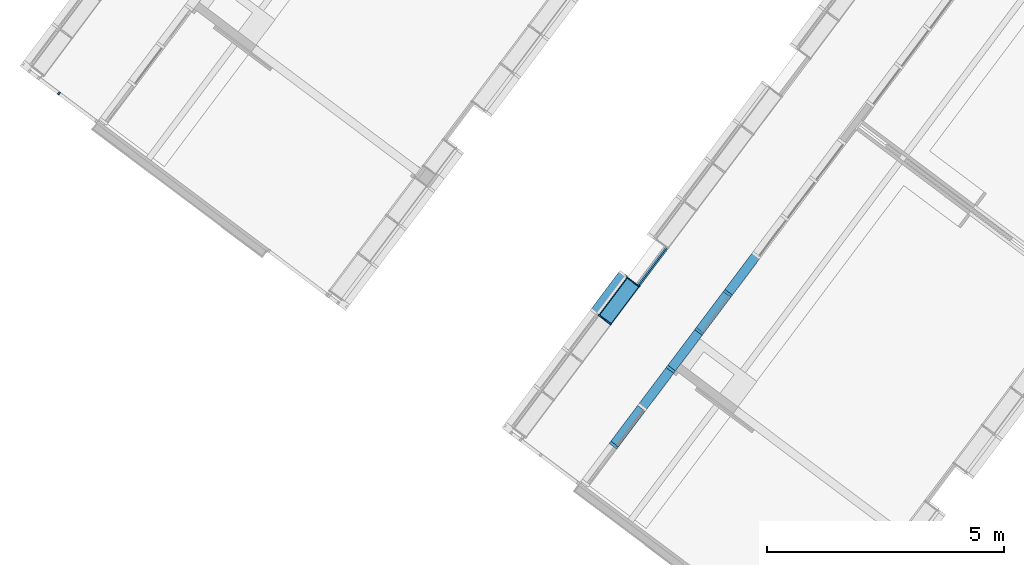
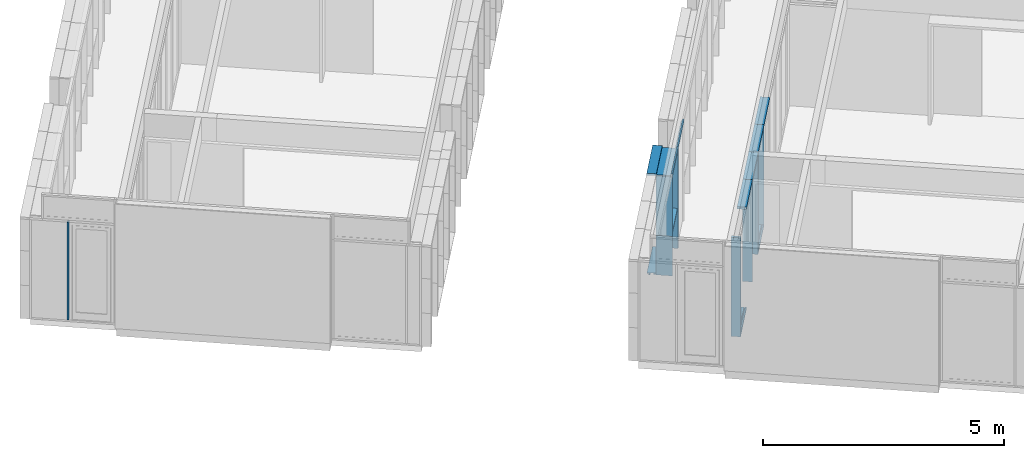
# One storey, part 35 of 243: 20 members, 4 elements without a shape of their own.
"""IFC2X3 building model written with IfcOpenShell, lengths in metres."""

from ifc_helpers import new_model, entity, si_unit, converted_unit, derived_unit, direction, frame, frame_2d, origin, place, context, subcontext, project, spatial, polyline, circle_curve, parameter, trimmed, segment, composite_curve, rectangle, outline, extrude, source, transform, mapped, material, type_object, type_shapes, element, aggregate, save


model = new_model("IFC2X3")

# Units and contexts
model_context = context("Model", 3, precision=1e-05, world=origin(), true_north=direction((6.123031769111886e-17, 1.0)))
body_context = subcontext(model_context, "Body", "Model", "MODEL_VIEW")
ifc_project = project(units=[si_unit("LENGTHUNIT", "METRE"), si_unit("AREAUNIT", "SQUARE_METRE"), si_unit("VOLUMEUNIT", "CUBIC_METRE"), converted_unit("PLANEANGLEUNIT", "DEGREE", entity("IfcRatioMeasure", 0.017453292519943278), si_unit("PLANEANGLEUNIT", "RADIAN"), dimensions=[0, 0, 0, 0, 0, 0, 0]), si_unit("MASSUNIT", "GRAM", prefix="KILO"), derived_unit("MASSDENSITYUNIT", [(si_unit("MASSUNIT", "GRAM", prefix="KILO"), 1), (si_unit("LENGTHUNIT", "METRE"), -3)]), derived_unit("IONCONCENTRATIONUNIT", [(si_unit("MASSUNIT", "GRAM", prefix="KILO"), 1), (si_unit("LENGTHUNIT", "METRE"), -3)]), derived_unit("MOMENTOFINERTIAUNIT", [(si_unit("LENGTHUNIT", "METRE"), 4)]), si_unit("TIMEUNIT", "SECOND"), si_unit("FREQUENCYUNIT", "HERTZ"), si_unit("THERMODYNAMICTEMPERATUREUNIT", "DEGREE_CELSIUS"), derived_unit("THERMALTRANSMITTANCEUNIT", [(si_unit("MASSUNIT", "GRAM", prefix="KILO"), 1), (si_unit("THERMODYNAMICTEMPERATUREUNIT", "KELVIN"), -1), (si_unit("TIMEUNIT", "SECOND"), -3)]), derived_unit("THERMALCONDUCTANCEUNIT", [(si_unit("MASSUNIT", "GRAM", prefix="KILO"), 1), (si_unit("THERMODYNAMICTEMPERATUREUNIT", "KELVIN"), -1), (si_unit("TIMEUNIT", "SECOND"), -3), (si_unit("LENGTHUNIT", "METRE"), 1)]), derived_unit("VOLUMETRICFLOWRATEUNIT", [(si_unit("LENGTHUNIT", "METRE"), 3), (si_unit("TIMEUNIT", "SECOND"), -1)]), derived_unit("MASSFLOWRATEUNIT", [(si_unit("MASSUNIT", "GRAM", prefix="KILO"), 1), (si_unit("TIMEUNIT", "SECOND"), -1)]), derived_unit("ROTATIONALFREQUENCYUNIT", [(si_unit("TIMEUNIT", "SECOND"), -1)]), si_unit("ELECTRICCURRENTUNIT", "AMPERE"), si_unit("ELECTRICVOLTAGEUNIT", "VOLT"), si_unit("POWERUNIT", "WATT"), si_unit("FORCEUNIT", "NEWTON", prefix="KILO"), si_unit("ILLUMINANCEUNIT", "LUX"), si_unit("LUMINOUSFLUXUNIT", "LUMEN"), si_unit("LUMINOUSINTENSITYUNIT", "CANDELA"), derived_unit("USERDEFINED", [(si_unit("MASSUNIT", "GRAM", prefix="KILO"), -1), (si_unit("LENGTHUNIT", "METRE"), -2), (si_unit("TIMEUNIT", "SECOND"), 3), (si_unit("LUMINOUSFLUXUNIT", "LUMEN"), 1)]), derived_unit("USERDEFINED", [(si_unit("MASSUNIT", "GRAM", prefix="KILO"), 1), (si_unit("TIMEUNIT", "SECOND"), -3), (si_unit("LENGTHUNIT", "METRE"), 3), (si_unit("ELECTRICCURRENTUNIT", "AMPERE"), -2)]), derived_unit("SOUNDPOWERUNIT", [(si_unit("MASSUNIT", "GRAM", prefix="KILO"), 1), (si_unit("TIMEUNIT", "SECOND"), -3), (si_unit("LENGTHUNIT", "METRE"), 2)]), derived_unit("SOUNDPRESSUREUNIT", [(si_unit("MASSUNIT", "GRAM", prefix="KILO"), 1), (si_unit("LENGTHUNIT", "METRE"), -1), (si_unit("TIMEUNIT", "SECOND"), -2)]), derived_unit("LINEARVELOCITYUNIT", [(si_unit("LENGTHUNIT", "METRE"), 1), (si_unit("TIMEUNIT", "SECOND"), -1)]), si_unit("PRESSUREUNIT", "PASCAL"), derived_unit("USERDEFINED", [(si_unit("MASSUNIT", "GRAM", prefix="KILO"), 1), (si_unit("LENGTHUNIT", "METRE"), -2), (si_unit("TIMEUNIT", "SECOND"), -2)]), derived_unit("LINEARFORCEUNIT", [(si_unit("MASSUNIT", "GRAM", prefix="KILO"), 1), (si_unit("TIMEUNIT", "SECOND"), -2)]), derived_unit("PLANARFORCEUNIT", [(si_unit("MASSUNIT", "GRAM", prefix="KILO"), 1), (si_unit("LENGTHUNIT", "METRE"), -1), (si_unit("TIMEUNIT", "SECOND"), -2)]), derived_unit("SPECIFICHEATCAPACITYUNIT", [(si_unit("THERMODYNAMICTEMPERATUREUNIT", "KELVIN"), -1), (si_unit("LENGTHUNIT", "METRE"), 2), (si_unit("TIMEUNIT", "SECOND"), -2)]), derived_unit("HEATINGVALUEUNIT", [(si_unit("LENGTHUNIT", "METRE"), 2), (si_unit("TIMEUNIT", "SECOND"), -2)]), derived_unit("VAPORPERMEABILITYUNIT", [(si_unit("LENGTHUNIT", "METRE"), -1), (si_unit("TIMEUNIT", "SECOND"), 1)]), derived_unit("DYNAMICVISCOSITYUNIT", [(si_unit("MASSUNIT", "GRAM", prefix="KILO"), 1), (si_unit("TIMEUNIT", "SECOND"), -1), (si_unit("LENGTHUNIT", "METRE"), -1)]), derived_unit("THERMALEXPANSIONCOEFFICIENTUNIT", [(si_unit("THERMODYNAMICTEMPERATUREUNIT", "KELVIN"), -1)]), derived_unit("MODULUSOFELASTICITYUNIT", [(si_unit("MASSUNIT", "GRAM", prefix="KILO"), 1), (si_unit("LENGTHUNIT", "METRE"), -1), (si_unit("TIMEUNIT", "SECOND"), -2)]), derived_unit("ISOTHERMALMOISTURECAPACITYUNIT", [(si_unit("LENGTHUNIT", "METRE"), 3), (si_unit("MASSUNIT", "GRAM", prefix="KILO"), -1)]), derived_unit("MOISTUREDIFFUSIVITYUNIT", [(si_unit("TIMEUNIT", "SECOND"), -1), (si_unit("LENGTHUNIT", "METRE"), 2)])], contexts=[model_context])

# Site, building, storey
site_placement = place(None, frame((0.0, 0.0, 235.0), z_axis=(0.0, 0.0, 1.0), x_axis=(-0.7996477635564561, 0.6004693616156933, 0.0)))
site = spatial("IfcSite", under=ifc_project, at=site_placement, Name="Default", CompositionType="ELEMENT")
building_placement = place(site_placement, origin())
building = spatial("IfcBuilding", under=site, at=building_placement, CompositionType="ELEMENT")
storey_placement = place(building_placement, origin())
storey = spatial("IfcBuildingStorey", under=building, at=storey_placement, Name="P0- Escola", CompositionType="ELEMENT", Elevation=0.0)

# Curtain wall, members
curtain_wall_type_1 = type_object("IfcCurtainWallType", Name="Muro cortina:MC- INT- a1", PredefinedType="NOTDEFINED")
curtain_wall_1_placement = place(storey_placement, origin())
curtain_wall_1 = element("IfcCurtainWall", 1, at=curtain_wall_1_placement, inside=storey, type_object=curtain_wall_type_1, Name="Muro cortina:MC- INT- a1", ObjectType="Muro cortina:MC- INT- a1")
ifc_material_1 = material(Name="_Fusta massisa- T1")
member_type_1 = type_object("IfcMemberType", Name="Montante rectangular:MC- Fusta- 20x6 cm- Esquerra", PredefinedType="MULLION", material=ifc_material_1)
shared_shape_1 = source(origin(), body_context, "Body", "SweptSolid", [
    extrude(outline(polyline([(-0.07000000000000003, -0.01875000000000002), (-0.04000000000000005, -0.01875000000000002), (-0.04000000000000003, -0.0037500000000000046), (-0.020000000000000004, -0.0037500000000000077), (-0.02, -0.018750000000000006), (0.13, -0.018749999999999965), (0.12999999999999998, 0.04125000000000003), (-0.06999999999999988, 0.04124999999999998), (-0.07000000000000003, -0.01875000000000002)])), frame((-0.041249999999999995, -0.03, -1.0), z_axis=(0.0, 0.0, 1.0), x_axis=(0.0, -1.0, 0.0)), (0.0, 0.0, 1.0), 0.9999999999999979),
])
type_shapes(member_type_1, [shared_shape_1])
member_1_placement = place(curtain_wall_1_placement, frame((60.02014768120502, -26.415189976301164, 2.565), z_axis=(0.0, -1.0, 0.0), x_axis=(0.0, 0.0, 1.0)))
member_1 = element("IfcMember", 2, at=member_1_placement, type_object=member_type_1, material=ifc_material_1, Name="Montante rectangular:MC- Fusta- 20x6 cm- Esquerra", ObjectType="Montante rectangular:MC- Fusta- 20x6 cm- Esquerra", context=body_context, shape_type="MappedRepresentation", body=[
    mapped(shared_shape_1, transform((0.0, 0.0, 0.0), scale=1.0)),
])
member_type_2 = type_object("IfcMemberType", Name="Montante rectangular:MC- Fusta- 20x6 cm- Esquerra", PredefinedType="MULLION", material=ifc_material_1)
shared_shape_2 = source(origin(), body_context, "Body", "SweptSolid", [
    extrude(outline(polyline([(-0.07000000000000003, -0.01875000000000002), (-0.04000000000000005, -0.01875000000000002), (-0.04000000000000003, -0.0037500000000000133), (-0.020000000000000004, -0.0037500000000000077), (-0.02, -0.018750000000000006), (0.13, -0.018749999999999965), (0.12999999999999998, 0.04125000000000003), (-0.06999999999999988, 0.04124999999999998), (-0.07000000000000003, -0.01875000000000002)])), frame((-0.01124999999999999, -0.03, -2.5050000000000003), z_axis=(0.0, 0.0, 1.0), x_axis=(0.0, -1.0, 0.0)), (0.0, 0.0, 1.0), 2.5050000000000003),
])
type_shapes(member_type_2, [shared_shape_2])
member_2_placement = place(curtain_wall_1_placement, frame((60.02014768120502, -25.415189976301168, 0.0), z_axis=(0.0, 0.0, -1.0), x_axis=(0.0, -1.0, 0.0)))
member_2 = element("IfcMember", 3, at=member_2_placement, type_object=member_type_2, material=ifc_material_1, Name="Montante rectangular:MC- Fusta- 20x6 cm- Esquerra", ObjectType="Montante rectangular:MC- Fusta- 20x6 cm- Esquerra", context=body_context, shape_type="MappedRepresentation", body=[
    mapped(shared_shape_2, transform((0.0, 0.0, 0.0), scale=1.0)),
])
member_type_3 = type_object("IfcMemberType", Name="Montante rectangular:MC- Fusta- 20x6 cm- Dreta", PredefinedType="MULLION", material=ifc_material_1)
shared_shape_3 = source(origin(), body_context, "Body", "SweptSolid", [
    extrude(outline(polyline([(-0.07000000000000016, -0.041249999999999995), (0.13000000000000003, -0.041249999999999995), (0.13000000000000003, 0.01875), (-0.019999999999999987, 0.01875), (-0.019999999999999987, 0.00375), (-0.04000000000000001, 0.00375), (-0.03999999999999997, 0.01875), (-0.06999999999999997, 0.01875), (-0.07000000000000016, -0.041249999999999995)])), frame((0.011250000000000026, -0.02999999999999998, -2.5050000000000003), z_axis=(0.0, 0.0, 1.0), x_axis=(0.0, -1.0, 0.0)), (0.0, 0.0, 1.0), 2.5050000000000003),
])
type_shapes(member_type_3, [shared_shape_3])
member_3_placement = place(curtain_wall_1_placement, frame((60.020147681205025, -21.415189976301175, 0.0), z_axis=(0.0, 0.0, -1.0), x_axis=(0.0, -1.0, 0.0)))
member_3 = element("IfcMember", 4, at=member_3_placement, type_object=member_type_3, material=ifc_material_1, Name="Montante rectangular:MC- Fusta- 20x6 cm- Dreta", ObjectType="Montante rectangular:MC- Fusta- 20x6 cm- Dreta", context=body_context, shape_type="MappedRepresentation", body=[
    mapped(shared_shape_3, transform((0.0, 0.0, 0.0), scale=1.0)),
])
member_type_4 = type_object("IfcMemberType", Name="Montante rectangular:MC- Fusta- 20x6 cm- Neutre", PredefinedType="MULLION", material=ifc_material_1)
shared_shape_4 = source(origin(), body_context, "Body", "SweptSolid", [
    extrude(rectangle(XDim=0.2, YDim=0.060000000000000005, at=frame_2d((-4.85722573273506e-17, -3.469446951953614e-18), x_axis=(1.0, 0.0))), frame((-0.03, -0.060000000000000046, -1.0), z_axis=(0.0, 0.0, 1.0), x_axis=(0.0, -1.0, 0.0)), (0.0, 0.0, 1.0), 0.9999999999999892),
])
type_shapes(member_type_4, [shared_shape_4])
member_4_placement = place(curtain_wall_1_placement, frame((60.02014768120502, -25.415189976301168, 2.565), z_axis=(0.0, -1.0, 0.0), x_axis=(0.0, 0.0, 1.0)))
member_4 = element("IfcMember", 5, at=member_4_placement, type_object=member_type_4, material=ifc_material_1, Name="Montante rectangular:MC- Fusta- 20x6 cm- Neutre", ObjectType="Montante rectangular:MC- Fusta- 20x6 cm- Neutre", context=body_context, shape_type="MappedRepresentation", body=[
    mapped(shared_shape_4, transform((0.0, 0.0, 0.0), scale=1.0)),
])
member_type_5 = type_object("IfcMemberType", Name="Montante rectangular:MC- Fusta- 20x6 cm- Neutre", PredefinedType="MULLION", material=ifc_material_1)
shared_shape_5 = source(origin(), body_context, "Body", "SweptSolid", [
    extrude(rectangle(XDim=0.2, YDim=0.060000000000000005, at=frame_2d((-4.85722573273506e-17, -3.469446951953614e-18), x_axis=(1.0, 0.0))), frame((-0.03, -0.060000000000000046, -1.0), z_axis=(0.0, 0.0, 1.0), x_axis=(0.0, -1.0, 0.0)), (0.0, 0.0, 1.0), 1.0000000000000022),
])
type_shapes(member_type_5, [shared_shape_5])
member_5_placement = place(curtain_wall_1_placement, frame((60.02014768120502, -24.415189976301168, 2.565), z_axis=(0.0, -1.0, 0.0), x_axis=(0.0, 0.0, 1.0)))
member_5 = element("IfcMember", 6, at=member_5_placement, type_object=member_type_5, material=ifc_material_1, Name="Montante rectangular:MC- Fusta- 20x6 cm- Neutre", ObjectType="Montante rectangular:MC- Fusta- 20x6 cm- Neutre", context=body_context, shape_type="MappedRepresentation", body=[
    mapped(shared_shape_5, transform((0.0, 0.0, 0.0), scale=1.0)),
])
member_type_6 = type_object("IfcMemberType", Name="Montante rectangular:MC- Fusta- 20x6 cm- Neutre", PredefinedType="MULLION", material=ifc_material_1)
shared_shape_6 = source(origin(), body_context, "Body", "SweptSolid", [
    extrude(rectangle(XDim=0.2, YDim=0.06, at=frame_2d((-4.85722573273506e-17, 0.0), x_axis=(1.0, 0.0))), frame((0.0, -0.060000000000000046, -2.5050000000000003), z_axis=(0.0, 0.0, 1.0), x_axis=(0.0, -1.0, 0.0)), (0.0, 0.0, 1.0), 2.5050000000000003),
])
type_shapes(member_type_6, [shared_shape_6])
member_6_placement = place(curtain_wall_1_placement, frame((60.02014768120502, -24.415189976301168, 0.0), z_axis=(0.0, 0.0, -1.0), x_axis=(0.0, -1.0, 0.0)))
member_6 = element("IfcMember", 7, at=member_6_placement, type_object=member_type_6, material=ifc_material_1, Name="Montante rectangular:MC- Fusta- 20x6 cm- Neutre", ObjectType="Montante rectangular:MC- Fusta- 20x6 cm- Neutre", context=body_context, shape_type="MappedRepresentation", body=[
    mapped(shared_shape_6, transform((0.0, 0.0, 0.0), scale=1.0)),
])
member_type_7 = type_object("IfcMemberType", Name="Montante rectangular:MC- Fusta- 20x6 cm- Neutre", PredefinedType="MULLION", material=ifc_material_1)
shared_shape_7 = source(origin(), body_context, "Body", "SweptSolid", [
    extrude(rectangle(XDim=0.2, YDim=0.060000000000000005, at=frame_2d((-4.85722573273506e-17, -3.469446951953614e-18), x_axis=(1.0, 0.0))), frame((-0.03, -0.060000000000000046, -1.0), z_axis=(0.0, 0.0, 1.0), x_axis=(0.0, -1.0, 0.0)), (0.0, 0.0, 1.0), 0.9999999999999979),
])
type_shapes(member_type_7, [shared_shape_7])
member_7_placement = place(curtain_wall_1_placement, frame((60.02014768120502, -23.41518997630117, 2.565), z_axis=(0.0, -1.0, 0.0), x_axis=(0.0, 0.0, 1.0)))
member_7 = element("IfcMember", 8, at=member_7_placement, type_object=member_type_7, material=ifc_material_1, Name="Montante rectangular:MC- Fusta- 20x6 cm- Neutre", ObjectType="Montante rectangular:MC- Fusta- 20x6 cm- Neutre", context=body_context, shape_type="MappedRepresentation", body=[
    mapped(shared_shape_7, transform((0.0, 0.0, 0.0), scale=1.0)),
])
member_type_8 = type_object("IfcMemberType", Name="Montante rectangular:MC- Fusta- 20x6 cm- Neutre", PredefinedType="MULLION", material=ifc_material_1)
shared_shape_8 = source(origin(), body_context, "Body", "SweptSolid", [
    extrude(rectangle(XDim=0.2, YDim=0.06, at=frame_2d((-4.85722573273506e-17, 0.0), x_axis=(1.0, 0.0))), frame((0.0, -0.060000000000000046, -2.5050000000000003), z_axis=(0.0, 0.0, 1.0), x_axis=(0.0, -1.0, 0.0)), (0.0, 0.0, 1.0), 2.5050000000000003),
])
type_shapes(member_type_8, [shared_shape_8])
member_8_placement = place(curtain_wall_1_placement, frame((60.02014768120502, -23.41518997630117, 0.0), z_axis=(0.0, 0.0, -1.0), x_axis=(0.0, -1.0, 0.0)))
member_8 = element("IfcMember", 9, at=member_8_placement, type_object=member_type_8, material=ifc_material_1, Name="Montante rectangular:MC- Fusta- 20x6 cm- Neutre", ObjectType="Montante rectangular:MC- Fusta- 20x6 cm- Neutre", context=body_context, shape_type="MappedRepresentation", body=[
    mapped(shared_shape_8, transform((0.0, 0.0, 0.0), scale=1.0)),
])
member_type_9 = type_object("IfcMemberType", Name="Montante rectangular:MC- Fusta- 20x6 cm- Inferior", PredefinedType="MULLION", material=ifc_material_1)
shared_shape_9 = source(origin(), body_context, "Body", "SweptSolid", [
    extrude(outline(polyline([(-0.06999999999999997, -0.018750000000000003), (-0.039999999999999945, -0.018750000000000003), (-0.03999999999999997, -0.003750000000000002), (-0.019999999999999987, -0.0037500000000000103), (-0.019999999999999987, -0.018750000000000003), (0.13000000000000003, -0.018750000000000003), (0.13000000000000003, 0.041249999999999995), (-0.07000000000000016, 0.041249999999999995), (-0.06999999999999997, -0.018750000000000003)])), frame((-0.041249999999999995, -0.02999999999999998, -0.9399999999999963), z_axis=(0.0, 0.0, 1.0), x_axis=(0.0, -1.0, 0.0)), (0.0, 0.0, 1.0), 0.9399999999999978),
])
type_shapes(member_type_9, [shared_shape_9])
member_9_placement = place(curtain_wall_1_placement, frame((60.02014768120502, -24.44518997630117, 0.0), z_axis=(0.0, 1.0, 0.0), x_axis=(0.0, 0.0, -1.0)))
member_9 = element("IfcMember", 10, at=member_9_placement, type_object=member_type_9, material=ifc_material_1, Name="Montante rectangular:MC- Fusta- 20x6 cm- Inferior", ObjectType="Montante rectangular:MC- Fusta- 20x6 cm- Inferior", context=body_context, shape_type="MappedRepresentation", body=[
    mapped(shared_shape_9, transform((0.0, 0.0, 0.0), scale=1.0)),
])
member_10_placement = place(curtain_wall_1_placement, frame((60.020147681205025, -21.445189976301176, 0.0), z_axis=(0.0, 1.0, 0.0), x_axis=(0.0, 0.0, -1.0)))
member_10 = element("IfcMember", 11, at=member_10_placement, type_object=member_type_9, material=ifc_material_1, Name="Montante rectangular:MC- Fusta- 20x6 cm- Inferior", ObjectType="Montante rectangular:MC- Fusta- 20x6 cm- Inferior", context=body_context, shape_type="MappedRepresentation", body=[
    mapped(shared_shape_9, transform((0.0, 0.0, 0.0), scale=1.0)),
])
aggregate(curtain_wall_1, [member_1, member_4, member_2, member_5, member_6, member_7, member_8, member_3, member_9, member_10])

curtain_wall_type_2 = type_object("IfcCurtainWallType", Name="Muro cortina:MC- INT- k2", PredefinedType="NOTDEFINED")
curtain_wall_2_placement = place(storey_placement, origin())
curtain_wall_2 = element("IfcCurtainWall", 12, at=curtain_wall_2_placement, inside=storey, type_object=curtain_wall_type_2, Name="Muro cortina:MC- INT- k2", ObjectType="Muro cortina:MC- INT- k2")
member_type_10 = type_object("IfcMemberType", Name="Montante rectangular:MC- Fusta- 35x3 cm- Centre", PredefinedType="MULLION", material=ifc_material_1)
shared_shape_10 = source(origin(), body_context, "Body", "SweptSolid", [
    extrude(rectangle(XDim=0.3450000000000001, YDim=0.030000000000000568, at=frame_2d((0.0, -1.3964523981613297e-16), x_axis=(1.0, 0.0))), frame((0.0, -0.07750000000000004, -1.0), z_axis=(0.0, 0.0, 1.0), x_axis=(0.0, -1.0, 0.0)), (0.0, 0.0, 1.0), 1.0),
])
type_shapes(member_type_10, [shared_shape_10])
member_11_placement = place(curtain_wall_2_placement, frame((61.745147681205, -23.41519175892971, 0.0), z_axis=(0.0, 0.0, -1.0), x_axis=(0.0, -1.0, 0.0)))
member_11 = element("IfcMember", 13, at=member_11_placement, type_object=member_type_10, material=ifc_material_1, Name="Montante rectangular:MC- Fusta- 35x3 cm- Centre", ObjectType="Montante rectangular:MC- Fusta- 35x3 cm- Centre", context=body_context, shape_type="MappedRepresentation", body=[
    mapped(shared_shape_10, transform((0.0, 0.0, 0.0), scale=1.0)),
])
member_type_11 = type_object("IfcMemberType", Name="Montante rectangular:MC- Fusta- 35x3 cm- Pati aules- Remat superior", PredefinedType="MULLION", material=ifc_material_1)
shared_shape_11 = source(origin(), body_context, "Body", "SweptSolid", [
    extrude(outline(polyline([(-0.12166666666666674, -0.02666666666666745), (0.21333333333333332, -0.02666666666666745), (0.2133333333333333, -0.006666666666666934), (-0.09166666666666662, -0.006666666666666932), (-0.09166666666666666, 0.03333333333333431), (-0.12166666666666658, 0.03333333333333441), (-0.12166666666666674, -0.02666666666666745)])), frame((-0.033333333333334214, -0.026666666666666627, -1.0), z_axis=(0.0, 0.0, 1.0), x_axis=(0.0, -1.0, 0.0)), (0.0, 0.0, 1.0), 0.9999999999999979),
])
type_shapes(member_type_11, [shared_shape_11])
member_12_placement = place(curtain_wall_2_placement, frame((61.745147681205, -24.415191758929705, 2.565), z_axis=(0.0, -1.0, 0.0), x_axis=(0.0, 0.0, 1.0)))
member_12 = element("IfcMember", 14, at=member_12_placement, type_object=member_type_11, material=ifc_material_1, Name="Montante rectangular:MC- Fusta- 35x3 cm- Pati aules- Remat superior", ObjectType="Montante rectangular:MC- Fusta- 35x3 cm- Pati aules- Remat superior", context=body_context, shape_type="MappedRepresentation", body=[
    mapped(shared_shape_11, transform((0.0, 0.0, 0.0), scale=1.0)),
])
member_type_12 = type_object("IfcMemberType", Name="Montante rectangular:MC- Fusta- 35x3 cm- Pati aules- Remat dreta", PredefinedType="MULLION", material=ifc_material_1)
shared_shape_12 = source(origin(), body_context, "Body", "SweptSolid", [
    extrude(outline(polyline([(-0.12500000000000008, -0.01666666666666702), (0.22, -0.01666666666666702), (0.22000000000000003, 0.003333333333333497), (-0.09499999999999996, 0.003333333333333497), (-0.09499999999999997, 0.013333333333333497), (-0.12500000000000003, 0.013333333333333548), (-0.12500000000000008, -0.01666666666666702)])), frame((0.00166666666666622, -0.03000000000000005, -1.0), z_axis=(0.0, 0.0, 1.0), x_axis=(0.0, -1.0, 0.0)), (0.0, 0.0, 1.0), 1.0),
])
type_shapes(member_type_12, [shared_shape_12])
member_13_placement = place(curtain_wall_2_placement, frame((61.745147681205, -24.415191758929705, 0.0), z_axis=(0.0, 0.0, -1.0), x_axis=(0.0, -1.0, 0.0)))
member_13 = element("IfcMember", 15, at=member_13_placement, type_object=member_type_12, material=ifc_material_1, Name="Montante rectangular:MC- Fusta- 35x3 cm- Pati aules- Remat dreta", ObjectType="Montante rectangular:MC- Fusta- 35x3 cm- Pati aules- Remat dreta", context=body_context, shape_type="MappedRepresentation", body=[
    mapped(shared_shape_12, transform((0.0, 0.0, 0.0), scale=1.0)),
])
member_type_13 = type_object("IfcMemberType", Name="Montante rectangular:MC- Fusta- 35x3 cm- Pati aules- Remat superior pilar", PredefinedType="MULLION", material=ifc_material_1)
shared_shape_13 = source(origin(), body_context, "Body", "SweptSolid", [
    extrude(outline(polyline([(-0.03166666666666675, -0.02666666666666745), (0.03333333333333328, -0.02666666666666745), (0.03333333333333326, -0.00666666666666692), (-0.0016666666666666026, -0.006666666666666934), (-0.0016666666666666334, 0.03333333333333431), (-0.03166666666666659, 0.03333333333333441), (-0.03166666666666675, -0.02666666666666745)])), frame((-0.03333333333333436, 0.06333333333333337, -1.0), z_axis=(0.0, 0.0, 1.0), x_axis=(0.0, -1.0, 0.0)), (0.0, 0.0, 1.0), 0.9999999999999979),
])
type_shapes(member_type_13, [shared_shape_13])
member_14_placement = place(curtain_wall_2_placement, frame((61.74514768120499, -25.415191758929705, 2.565), z_axis=(0.0, -1.0, 0.0), x_axis=(0.0, 0.0, 1.0)))
member_14 = element("IfcMember", 16, at=member_14_placement, type_object=member_type_13, material=ifc_material_1, Name="Montante rectangular:MC- Fusta- 35x3 cm- Pati aules- Remat superior pilar", ObjectType="Montante rectangular:MC- Fusta- 35x3 cm- Pati aules- Remat superior pilar", context=body_context, shape_type="MappedRepresentation", body=[
    mapped(shared_shape_13, transform((0.0, 0.0, 0.0), scale=1.0)),
])
member_type_14 = type_object("IfcMemberType", Name="Montante rectangular:MC- Fusta- 35x3 cm- Pati aules- Prestatge", PredefinedType="MULLION", material=ifc_material_1)
shared_shape_14 = source(origin(), body_context, "Body", "SweptSolid", [
    extrude(rectangle(XDim=0.30000000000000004, YDim=0.03000000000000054, at=frame_2d((0.0, -1.231653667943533e-16), x_axis=(1.0, 0.0))), frame((0.0, -0.07000000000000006, -0.9699999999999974), z_axis=(0.0, 0.0, 1.0), x_axis=(0.0, -1.0, 0.0)), (0.0, 0.0, 1.0), 0.969999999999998),
])
type_shapes(member_type_14, [shared_shape_14])
member_15_placement = place(curtain_wall_2_placement, frame((61.745147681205, -24.400191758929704, 1.0), z_axis=(0.0, -1.0, 0.0), x_axis=(0.0, 0.0, 1.0)))
member_15 = element("IfcMember", 17, at=member_15_placement, type_object=member_type_14, material=ifc_material_1, Name="Montante rectangular:MC- Fusta- 35x3 cm- Pati aules- Prestatge", ObjectType="Montante rectangular:MC- Fusta- 35x3 cm- Pati aules- Prestatge", context=body_context, shape_type="MappedRepresentation", body=[
    mapped(shared_shape_14, transform((0.0, 0.0, 0.0), scale=1.0)),
])
member_type_15 = type_object("IfcMemberType", Name="Montante rectangular:MC- Fusta- 35x3 cm- Centre", PredefinedType="MULLION", material=ifc_material_1)
shared_shape_15 = source(origin(), body_context, "Body", "SweptSolid", [
    extrude(rectangle(XDim=0.3450000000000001, YDim=0.030000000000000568, at=frame_2d((0.0, -1.3964523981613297e-16), x_axis=(1.0, 0.0))), frame((0.0, -0.07750000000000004, -1.504999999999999), z_axis=(0.0, 0.0, 1.0), x_axis=(0.0, -1.0, 0.0)), (0.0, 0.0, 1.0), 1.504999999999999),
])
type_shapes(member_type_15, [shared_shape_15])
member_16_placement = place(curtain_wall_2_placement, frame((61.745147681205, -23.41519175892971, 1.0), z_axis=(0.0, 0.0, -1.0), x_axis=(0.0, -1.0, 0.0)))
member_16 = element("IfcMember", 18, at=member_16_placement, type_object=member_type_15, material=ifc_material_1, Name="Montante rectangular:MC- Fusta- 35x3 cm- Centre", ObjectType="Montante rectangular:MC- Fusta- 35x3 cm- Centre", context=body_context, shape_type="MappedRepresentation", body=[
    mapped(shared_shape_15, transform((0.0, 0.0, 0.0), scale=1.0)),
])
member_type_16 = type_object("IfcMemberType", Name="Montante rectangular:MC- Fusta- 35x3 cm- Pati aules- Remat dreta", PredefinedType="MULLION", material=ifc_material_1)
shared_shape_16 = source(origin(), body_context, "Body", "SweptSolid", [
    extrude(outline(polyline([(-0.12500000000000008, -0.01666666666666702), (0.22, -0.01666666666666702), (0.22000000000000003, 0.003333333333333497), (-0.09499999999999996, 0.003333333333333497), (-0.09499999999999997, 0.013333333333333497), (-0.12500000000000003, 0.013333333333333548), (-0.12500000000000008, -0.01666666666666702)])), frame((0.00166666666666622, -0.03000000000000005, -1.504999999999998), z_axis=(0.0, 0.0, 1.0), x_axis=(0.0, -1.0, 0.0)), (0.0, 0.0, 1.0), 1.504999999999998),
])
type_shapes(member_type_16, [shared_shape_16])
member_17_placement = place(curtain_wall_2_placement, frame((61.745147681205, -24.415191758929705, 1.0), z_axis=(0.0, 0.0, -1.0), x_axis=(0.0, -1.0, 0.0)))
member_17 = element("IfcMember", 19, at=member_17_placement, type_object=member_type_16, material=ifc_material_1, Name="Montante rectangular:MC- Fusta- 35x3 cm- Pati aules- Remat dreta", ObjectType="Montante rectangular:MC- Fusta- 35x3 cm- Pati aules- Remat dreta", context=body_context, shape_type="MappedRepresentation", body=[
    mapped(shared_shape_16, transform((0.0, 0.0, 0.0), scale=1.0)),
])
aggregate(curtain_wall_2, [member_11, member_12, member_13, member_14, member_15, member_16, member_17])

# Curtain wall, member
curtain_wall_type_3 = type_object("IfcCurtainWallType", Name="Muro cortina:MC- EXT- AL1- Fa porxo", PredefinedType="NOTDEFINED")
curtain_wall_3_placement = place(storey_placement, origin())
curtain_wall_3 = element("IfcCurtainWall", 20, at=curtain_wall_3_placement, inside=storey, type_object=curtain_wall_type_3, Name="Muro cortina:MC- EXT- AL1- Fa porxo", ObjectType="Muro cortina:MC- EXT- AL1- Fa porxo")
ifc_material_2 = material(Name="_Alumini- T1- Perfil")
member_type_17 = type_object("IfcMemberType", Name="Montante rectangular:MC- Alu- 65x41 cm- Fa Porxo- Centre", PredefinedType="MULLION", material=ifc_material_2)
shared_shape_17 = source(origin(), body_context, "Body", "SweptSolid", [
    extrude(rectangle(XDim=0.06500000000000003, YDim=0.04100000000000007, at=frame_2d((0.0, -8.673617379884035e-18), x_axis=(1.0, 0.0))), frame((0.0, -0.032499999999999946, -2.4712500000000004), z_axis=(0.0, 0.0, 1.0), x_axis=(0.0, -1.0, 0.0)), (0.0, 0.0, 1.0), 2.4712500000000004),
])
type_shapes(member_type_17, [shared_shape_17])
member_18_placement = place(curtain_wall_3_placement, frame((73.88514768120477, -20.28894175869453, 0.020999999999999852), z_axis=(0.0, 0.0, -1.0), x_axis=(-1.0, 0.0, 0.0)))
member_18 = element("IfcMember", 21, at=member_18_placement, type_object=member_type_17, material=ifc_material_2, Name="Montante rectangular:MC- Alu- 65x41 cm- Fa Porxo- Centre", ObjectType="Montante rectangular:MC- Alu- 65x41 cm- Fa Porxo- Centre", context=body_context, shape_type="MappedRepresentation", body=[
    mapped(shared_shape_17, transform((0.0, 0.0, 0.0), scale=1.0)),
])
aggregate(curtain_wall_3, [member_18])

# Curtain wall, members
curtain_wall_type_4 = type_object("IfcCurtainWallType", Name="Muro cortina:MC- EXT- MC5", PredefinedType="NOTDEFINED")
curtain_wall_4_placement = place(storey_placement, origin())
curtain_wall_4 = element("IfcCurtainWall", 22, at=curtain_wall_4_placement, inside=storey, type_object=curtain_wall_type_4, Name="Muro cortina:MC- EXT- MC5", ObjectType="Muro cortina:MC- EXT- MC5")
member_type_18 = type_object("IfcMemberType", Name="Montante rectangular:MC- Alu- 140x52,5 cm- Fa patis- inferior", PredefinedType="MULLION", material=ifc_material_2)
shared_shape_18 = source(origin(), body_context, "Body", "SweptSolid", [
    extrude(outline(composite_curve([segment(polyline([(-0.144167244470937, -0.025867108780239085), (-0.12786724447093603, -0.02586710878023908)]), True, "CONTINUOUS"), segment(polyline([(-0.12786724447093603, -0.02586710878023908), (-0.12786724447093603, -0.023167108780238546)]), True, "CONTINUOUS"), segment(polyline([(-0.12786724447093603, -0.023167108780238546), (-0.0678672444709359, -0.023167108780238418)]), True, "CONTINUOUS"), segment(polyline([(-0.0678672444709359, -0.023167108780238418), (0.07031215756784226, -0.010722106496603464)]), True, "CONTINUOUS"), segment(trimmed(circle_curve(frame_2d((0.07013275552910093, -0.008730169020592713), x_axis=(0.0897010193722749, -0.9959687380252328)), 0.0019999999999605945), [parameter(0.0)], [parameter(84.8535928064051)], True, "PARAMETER"), True, "CONTINUOUS"), segment(polyline([(0.07213275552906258, -0.008730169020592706), (0.07213275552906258, 0.006266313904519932)]), True, "CONTINUOUS"), segment(trimmed(circle_curve(frame_2d((0.07013275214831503, 0.006266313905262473), x_axis=(1.0, 0.0)), 0.0020000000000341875), [parameter(0.0)], [parameter(90.00000002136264)], True, "PARAMETER"), True, "CONTINUOUS"), segment(polyline([(0.070132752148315, 0.008266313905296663), (0.06213275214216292, 0.008266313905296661)]), True, "CONTINUOUS"), segment(polyline([(0.06213275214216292, 0.008266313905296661), (0.06213275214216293, 0.006266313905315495)]), True, "CONTINUOUS"), segment(polyline([(0.06213275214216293, 0.006266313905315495), (0.06963275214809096, 0.006266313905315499)]), True, "CONTINUOUS"), segment(trimmed(circle_curve(frame_2d((0.06963275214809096, 0.005766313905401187), x_axis=(0.0, 1.0)), 0.0004999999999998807), [parameter(269.9999999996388)], [parameter(0.0)], True, "PARAMETER"), False, "CONTINUOUS"), segment(polyline([(0.07013275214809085, 0.005766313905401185), (0.07013275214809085, -0.008730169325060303)]), True, "CONTINUOUS"), segment(polyline([(0.07013275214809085, -0.008730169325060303), (0.03213275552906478, -0.012152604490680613)]), True, "CONTINUOUS"), segment(polyline([(0.03213275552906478, -0.0121526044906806), (0.03213275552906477, 0.029132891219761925)]), True, "CONTINUOUS"), segment(polyline([(0.03213275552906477, 0.029132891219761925), (0.0021327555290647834, 0.029132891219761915)]), True, "CONTINUOUS"), segment(polyline([(0.0021327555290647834, 0.029132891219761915), (0.0021327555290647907, 0.02713289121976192)]), True, "CONTINUOUS"), segment(polyline([(0.0021327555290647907, 0.02713289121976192), (0.03013275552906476, 0.02713289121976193)]), True, "CONTINUOUS"), segment(polyline([(0.03013275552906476, 0.027132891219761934), (0.03013275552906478, -0.012332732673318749)]), True, "CONTINUOUS"), segment(polyline([(0.03013275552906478, -0.012332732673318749), (-0.06786724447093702, -0.021159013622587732)]), True, "CONTINUOUS"), segment(polyline([(-0.06786724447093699, -0.02115901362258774), (-0.067867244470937, 0.009132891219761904)]), True, "CONTINUOUS"), segment(polyline([(-0.06786724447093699, 0.009132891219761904), (-0.14416724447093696, 0.009132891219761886)]), True, "CONTINUOUS"), segment(polyline([(-0.14416724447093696, 0.009132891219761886), (-0.144167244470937, -0.025867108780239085)]), True, "CONTINUOUS")], self_intersect=False)), frame((-0.029132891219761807, -0.06786724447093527, -0.9737499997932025), z_axis=(0.0, 0.0, 1.0), x_axis=(0.0, -1.0, 0.0)), (0.0, 0.0, 1.0), 0.9737499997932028),
])
type_shapes(member_type_18, [shared_shape_18])
member_19_placement = place(curtain_wall_4_placement, frame((62.04514768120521, -23.41519175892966, -0.02), z_axis=(0.0, 1.0, 0.0), x_axis=(0.0, 0.0, -1.0)))
member_19 = element("IfcMember", 23, at=member_19_placement, type_object=member_type_18, material=ifc_material_2, Name="Montante rectangular:MC- Alu- 140x52,5 cm- Fa patis- inferior", ObjectType="Montante rectangular:MC- Alu- 140x52,5 cm- Fa patis- inferior", context=body_context, shape_type="MappedRepresentation", body=[
    mapped(shared_shape_18, transform((0.0, 0.0, 0.0), scale=1.0)),
])
member_type_19 = type_object("IfcMemberType", Name="Montante rectangular:MC- Alu- 140x52,5 cm- Fa patis- Superior", PredefinedType="MULLION", material=ifc_material_2)
shared_shape_19 = source(origin(), body_context, "Body", "SweptSolid", [
    extrude(outline(polyline([(-0.026333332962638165, -0.021249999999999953), (0.11366666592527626, -0.021249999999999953), (0.11366666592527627, 0.031250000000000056), (-0.08733333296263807, 0.03125000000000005), (-0.0873333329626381, -0.010000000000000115), (-0.026333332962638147, -0.010000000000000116), (-0.026333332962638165, -0.021249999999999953)])), frame((-0.031250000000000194, -0.02733333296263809, -1.0262500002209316), z_axis=(0.0, 0.0, 1.0), x_axis=(0.0, -1.0, 0.0)), (0.0, 0.0, 1.0), 1.0262500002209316),
])
type_shapes(member_type_19, [shared_shape_19])
member_20_placement = place(curtain_wall_4_placement, frame((62.04514768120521, -24.441441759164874, 2.545), z_axis=(0.0, -1.0, 0.0), x_axis=(0.0, 0.0, 1.0)))
member_20 = element("IfcMember", 24, at=member_20_placement, type_object=member_type_19, material=ifc_material_2, Name="Montante rectangular:MC- Alu- 140x52,5 cm- Fa patis- Superior", ObjectType="Montante rectangular:MC- Alu- 140x52,5 cm- Fa patis- Superior", context=body_context, shape_type="MappedRepresentation", body=[
    mapped(shared_shape_19, transform((0.0, 0.0, 0.0), scale=1.0)),
])
aggregate(curtain_wall_4, [member_19, member_20])

save(model, "model.ifc")
